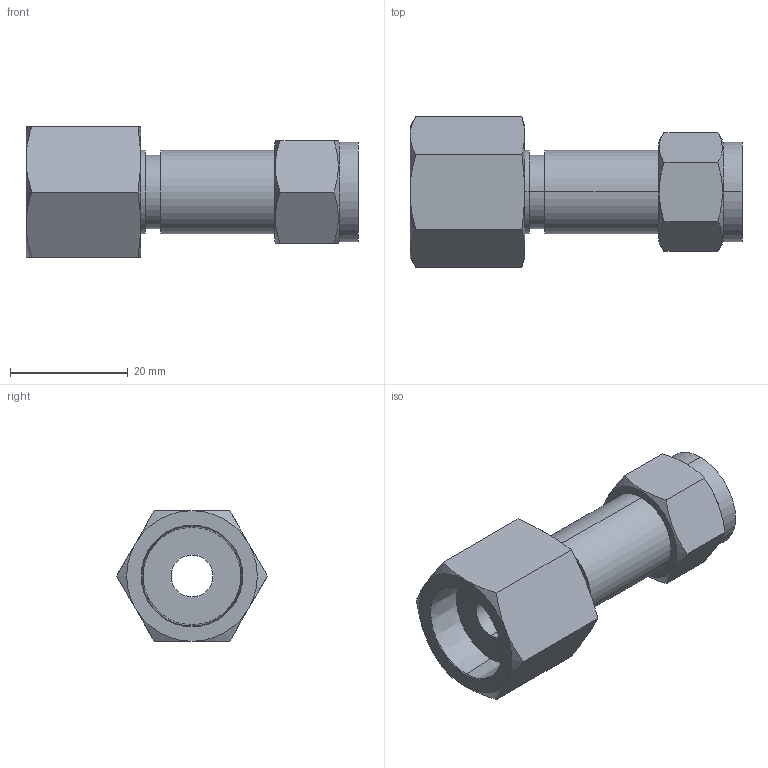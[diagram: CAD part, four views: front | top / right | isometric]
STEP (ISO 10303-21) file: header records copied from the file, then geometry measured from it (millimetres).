
FILE_DESCRIPTION (( 'STEP AP203' ), '1' );
FILE_NAME ('DSS06-06 SS.STEP', '2009-09-08T09:15:37', ( ' ' ), ( '' ), 'SwSTEP 2.0', 'SolidWorks 2008', '' );
FILE_SCHEMA (( 'CONFIG_CONTROL_DESIGN' ));
Length unit declared in the file: millimetre
Products named in the file (1): DSS06-06 SS
Bounding box: 56.5 x 25.67 x 22.23 mm (x, y, z)
Volume: 11601.8 mm3; surface area: 5898.9 mm2
Topology: 1 solids, 1 shells, 52 faces, 116 edges, 72 vertices
Faces by surface type: cone 20, plane 20, cylinder 12
Entity records: 1709 total; most frequent: CARTESIAN_POINT 513, ORIENTED_EDGE 232, DIRECTION 226, EDGE_CURVE 116, AXIS2_PLACEMENT_3D 97, VERTEX_POINT 72, EDGE_LOOP 60, ADVANCED_FACE 52
